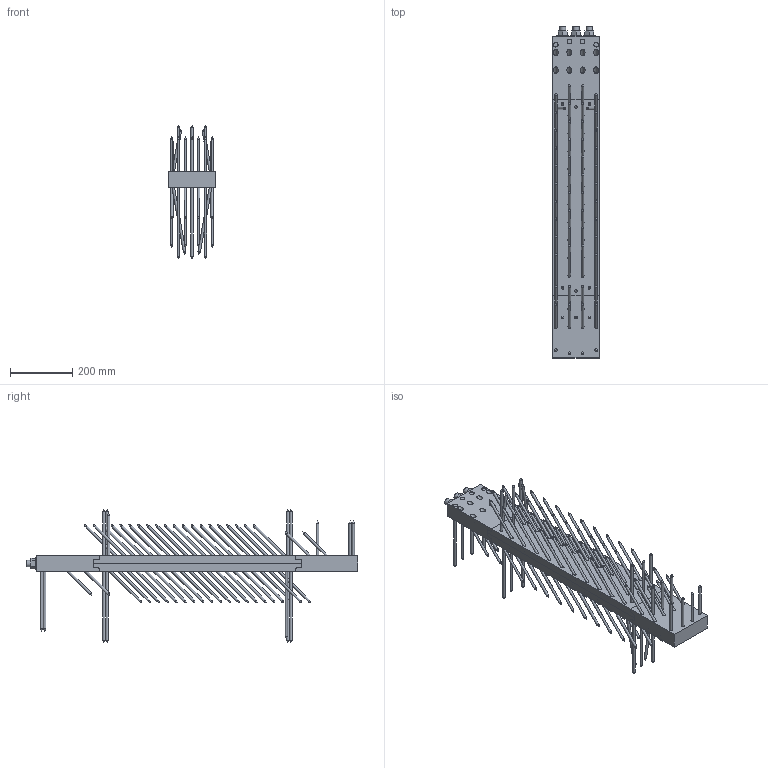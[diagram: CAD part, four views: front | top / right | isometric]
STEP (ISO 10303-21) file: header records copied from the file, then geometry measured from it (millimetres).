
FILE_DESCRIPTION(/* description */ ('Unknown'),/* implementation_level */ '2;1');
FILE_NAME(/* name */ 'MEGANT_1030x150x50_Sichtbar',/* time_stamp */ '2020-05-06T08:31:22+02:00',/* author */ ('Unknown'),/* organization */ ('Unknown'),/* preprocessor_version */ 'ST-DEVELOPER v16.7',/* originating_system */ 'DEX',/* authorisation */ $);
FILE_SCHEMA (('AUTOMOTIVE_DESIGN {1 0 10303 214 3 1 1}'));
Length unit declared in the file: millimetre
Products named in the file (14): MEGANT_1030x150x50_Sichtbar; Verbinderplatte_670x150x25_NT; SK_Schraube_8x240; Verbinderplatte_670x150x25; SK_Schraube_8x160; Verbinderplatte_670x150x25_HT; Gewindestange_M20_L920; Mutter_M20; Beilagscheibe_M20; Spannbacke_oben_150x200x50_NT; Spannbacke_oben_150x200x50; Spannbacke_unten_150x200x50_HT; Spannbacke_unten_150x200x50
Assembly tree (137 placements, depth 3):
  MEGANT_1030x150x50_Sichtbar
    Verbinderplatte_670x150x25_NT
      SK_Schraube_8x240  x8
      Verbinderplatte_670x150x25
      SK_Schraube_8x160  x40
    Verbinderplatte_670x150x25_HT
      SK_Schraube_8x160  x48
      Verbinderplatte_670x150x25
    Gewindestange_M20_L920  x3
      Gewindestange_M20_L920
      Mutter_M20
      Beilagscheibe_M20
    Spannbacke_oben_150x200x50_NT
      Spannbacke_oben_150x200x50
      SK_Schraube_8x160  x8
      SK_Schraube_8x240  x4
    Spannbacke_unten_150x200x50_HT
      Spannbacke_unten_150x200x50
      SK_Schraube_8x160  x15
Bounding box: 150 x 1065 x 425 mm (x, y, z)
Volume: 8001866.2 mm3; surface area: 1671022.5 mm2
Topology: 136 solids, 136 shells, 1255 faces, 2791 edges, 1757 vertices
Faces by surface type: cylinder 513, cone 369, plane 361, bspline 12
Full cylindrical faces by diameter (mm): 8 x123, 8.5 x123, 15 x246, 17.294 x3, 17.5 x6, 20 x3, 21 x6, 37 x3
Entity records: 11515 total; most frequent: CARTESIAN_POINT 1941, DIRECTION 1930, ORIENTED_EDGE 1186, AXIS2_PLACEMENT_3D 866, FACE_BOUND 818, EDGE_LOOP 816, EDGE_CURVE 593, VERTEX_POINT 517
